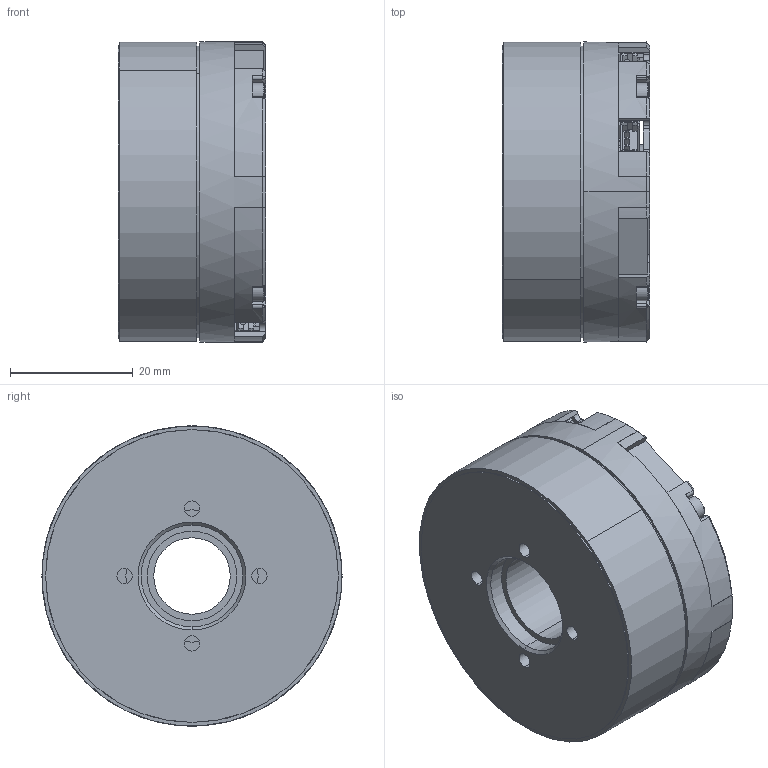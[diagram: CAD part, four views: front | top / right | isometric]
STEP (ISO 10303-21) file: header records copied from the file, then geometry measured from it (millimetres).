
FILE_DESCRIPTION (( 'STEP AP214' ), '1' );
FILE_NAME ('OT4307耀倰_20230704.STEP', '2023-07-04T12:07:39', ( '' ), ( '' ), 'SwSTEP 2.0', 'SolidWorks 2016', '' );
FILE_SCHEMA (( 'AUTOMOTIVE_DESIGN' ));
Length unit declared in the file: millimetre
Products named in the file (18): DQ-PH2.0-4-90; HO4307.00-M2 隔圈; HO4307.00-M3 蛌赽釱; DQ-DIP_4_1.25_90; HO4307.00-M6 外压圈; HO4307.00-M5 内压圈; HO4307.00-M1 隅赽釱; OT4307耀倰_20230704; WG-M2℅4; DQ-DIP_3_1.25_90; HO4307.00-M7 綴裔; HO4307.00-A1 棠詩; WG-M1.6｡ﾁ4; HO4307.00-A2 棠遠; DQ-43XX驱动板轮廓; WG-6703粣創; DQ-43XX 驱动板; HO4307.00-M4 棠濎
Assembly tree (27 placements, depth 2):
  OT4307耀倰_20230704
    HO4307.00-M1 隅赽釱
    HO4307.00-M2 隔圈
    HO4307.00-M3 蛌赽釱
    HO4307.00-M4 棠濎
    HO4307.00-M5 内压圈
    HO4307.00-M6 外压圈
    HO4307.00-M7 綴裔
    WG-6703粣創  x2
    HO4307.00-A1 棠詩
    HO4307.00-A2 棠遠
    DQ-43XX 驱动板
    DQ-43XX驱动板轮廓
    DQ-PH2.0-4-90
    DQ-DIP_4_1.25_90  x2
    DQ-DIP_3_1.25_90  x3
    WG-M2℅4  x4
    WG-M1.6｡ﾁ4  x4
Bounding box: 24 x 49 x 49 mm (x, y, z)
Volume: 19684.3 mm3; surface area: 35815.5 mm2
Topology: 112 solids, 112 shells, 7266 faces, 19879 edges, 12972 vertices
Faces by surface type: plane 4921, cylinder 2196, cone 81, bspline 36, torus 32
Entity records: 284860 total; most frequent: CARTESIAN_POINT 38115, ORIENTED_EDGE 36360, DIRECTION 35814, EDGE_CURVE 18180, VECTOR 13592, LINE 13592, VERTEX_POINT 11904, AXIS2_PLACEMENT_3D 11111
